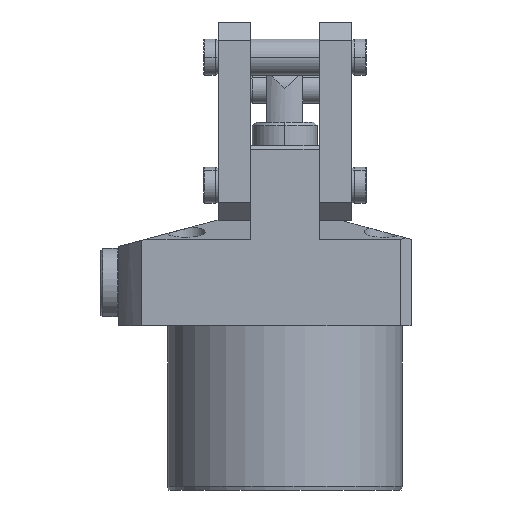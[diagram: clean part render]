
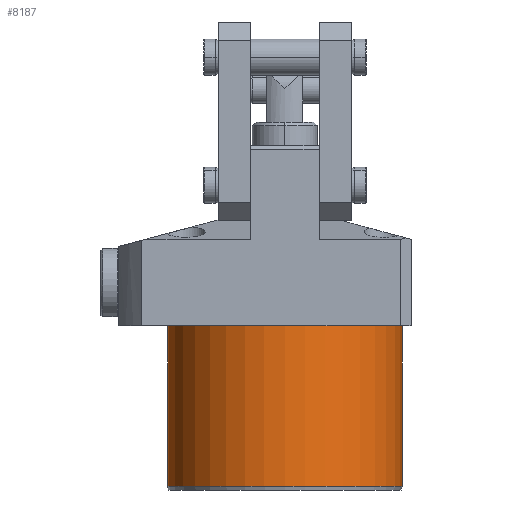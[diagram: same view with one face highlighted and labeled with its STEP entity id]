
A CAD part, front view. The second image highlights one B-rep face of the part: STEP entity #8187.
In plain terms, the highlighted cylindrical face has radius 32.5 mm (diameter 65 mm), a partial arc.
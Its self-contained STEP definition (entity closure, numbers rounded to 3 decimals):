
#243 = EDGE_CURVE ( 'NONE', #13044, #5804, #7047, .T. ) ;
#585 = VERTEX_POINT ( 'NONE', #7177 ) ;
#1015 = VECTOR ( 'NONE', #12150, 1000. ) ;
#1071 = DIRECTION ( 'NONE',  ( 0., 0., 1. ) ) ;
#1080 = ORIENTED_EDGE ( 'NONE', *, *, #12328, .T. ) ;
#1595 = DIRECTION ( 'NONE',  ( 0., 0., 1. ) ) ;
#3228 = DIRECTION ( 'NONE',  ( 0., 0., -1. ) ) ;
#3457 = AXIS2_PLACEMENT_3D ( 'NONE', #9805, #1595, #11135 ) ;
#3798 = CYLINDRICAL_SURFACE ( 'NONE', #5249, 32.5 ) ;
#3837 = CARTESIAN_POINT ( 'NONE',  ( -32.5, 0., -45.5 ) ) ;
#3880 = ORIENTED_EDGE ( 'NONE', *, *, #5213, .T. ) ;
#4242 = FACE_OUTER_BOUND ( 'NONE', #12475, .T. ) ;
#4675 = LINE ( 'NONE', #8110, #1015 ) ;
#5213 = EDGE_CURVE ( 'NONE', #585, #11275, #15642, .T. ) ;
#5214 = DIRECTION ( 'NONE',  ( 1., 0., 0. ) ) ;
#5249 = AXIS2_PLACEMENT_3D ( 'NONE', #9313, #17281, #5214 ) ;
#5804 = VERTEX_POINT ( 'NONE', #11561 ) ;
#7047 = CIRCLE ( 'NONE', #3457, 32.5 ) ;
#7098 = ORIENTED_EDGE ( 'NONE', *, *, #243, .T. ) ;
#7177 = CARTESIAN_POINT ( 'NONE',  ( 32.5, 0., 0. ) ) ;
#8110 = CARTESIAN_POINT ( 'NONE',  ( 32.5, 0., -45.5 ) ) ;
#8187 = ADVANCED_FACE ( 'NONE', ( #4242 ), #3798, .T. ) ;
#9197 = VECTOR ( 'NONE', #1071, 1000. ) ;
#9285 = CARTESIAN_POINT ( 'NONE',  ( -32.5, 0., 0. ) ) ;
#9313 = CARTESIAN_POINT ( 'NONE',  ( 0., 0., -45.5 ) ) ;
#9805 = CARTESIAN_POINT ( 'NONE',  ( 0., 0., -44.5 ) ) ;
#11135 = DIRECTION ( 'NONE',  ( -1., 0., 0. ) ) ;
#11275 = VERTEX_POINT ( 'NONE', #9285 ) ;
#11309 = EDGE_CURVE ( 'NONE', #13044, #11275, #16260, .T. ) ;
#11372 = CARTESIAN_POINT ( 'NONE',  ( 0., 0., 0. ) ) ;
#11561 = CARTESIAN_POINT ( 'NONE',  ( 32.5, 0., -44.5 ) ) ;
#12150 = DIRECTION ( 'NONE',  ( 0., 0., 1. ) ) ;
#12328 = EDGE_CURVE ( 'NONE', #5804, #585, #4675, .T. ) ;
#12475 = EDGE_LOOP ( 'NONE', ( #12967, #7098, #1080, #3880 ) ) ;
#12694 = DIRECTION ( 'NONE',  ( 1., 0., 0. ) ) ;
#12967 = ORIENTED_EDGE ( 'NONE', *, *, #11309, .F. ) ;
#13044 = VERTEX_POINT ( 'NONE', #15301 ) ;
#13135 = AXIS2_PLACEMENT_3D ( 'NONE', #11372, #3228, #12694 ) ;
#15301 = CARTESIAN_POINT ( 'NONE',  ( -32.5, 0., -44.5 ) ) ;
#15642 = CIRCLE ( 'NONE', #13135, 32.5 ) ;
#16260 = LINE ( 'NONE', #3837, #9197 ) ;
#17281 = DIRECTION ( 'NONE',  ( 0., 0., 1. ) ) ;
